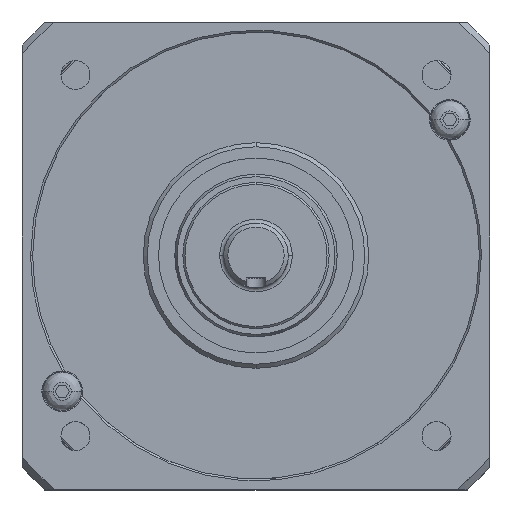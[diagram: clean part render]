
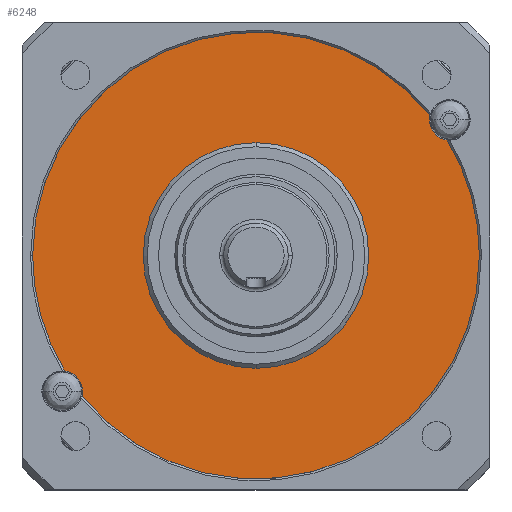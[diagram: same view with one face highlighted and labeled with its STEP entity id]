
A CAD part, top view. The second image highlights one B-rep face of the part: STEP entity #6248.
In plain terms, the highlighted planar face has unit normal (0, 0, 1).
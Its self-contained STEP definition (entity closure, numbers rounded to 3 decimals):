
#5985=CARTESIAN_POINT('',(0.,0.,77.899));
#5986=DIRECTION('',(0.,0.,-1.));
#5987=DIRECTION('',(0.,1.,0.));
#5988=AXIS2_PLACEMENT_3D('',#5985,#5986,#5987);
#5990=CARTESIAN_POINT('',(0.,0.,77.899));
#5991=DIRECTION('',(0.,0.,-1.));
#5992=DIRECTION('',(0.,-1.,0.));
#5993=AXIS2_PLACEMENT_3D('',#5990,#5991,#5992);
#6004=CARTESIAN_POINT('',(0.,0.,77.899));
#6005=DIRECTION('',(0.,0.,1.));
#6006=DIRECTION('',(1.,0.,0.));
#6007=AXIS2_PLACEMENT_3D('',#6004,#6005,#6006);
#6022=CARTESIAN_POINT('',(0.,0.,77.899));
#6023=DIRECTION('',(0.,0.,1.));
#6024=DIRECTION('',(0.779,0.627,0.));
#6025=AXIS2_PLACEMENT_3D('',#6022,#6023,#6024);
#6036=CARTESIAN_POINT('',(0.,0.,77.899));
#6037=DIRECTION('',(0.,0.,1.));
#6038=DIRECTION('',(-1.,0.,0.));
#6039=AXIS2_PLACEMENT_3D('',#6036,#6037,#6038);
#6054=CARTESIAN_POINT('',(0.,0.,77.899));
#6055=DIRECTION('',(0.,0.,1.));
#6056=DIRECTION('',(-0.779,-0.627,0.));
#6057=AXIS2_PLACEMENT_3D('',#6054,#6055,#6056);
#6059=CARTESIAN_POINT('',(-47.716,-33.411,77.899));
#6060=DIRECTION('',(0.,0.,-1.));
#6061=DIRECTION('',(0.129,0.992,0.));
#6062=AXIS2_PLACEMENT_3D('',#6059,#6060,#6061);
#6069=CARTESIAN_POINT('',(47.716,33.411,77.899));
#6070=DIRECTION('',(0.,0.,-1.));
#6071=DIRECTION('',(-0.129,-0.992,0.));
#6072=AXIS2_PLACEMENT_3D('',#6069,#6070,#6071);
#6095=CARTESIAN_POINT('',(0.,27.775,77.899));
#6096=CARTESIAN_POINT('',(0.,-27.775,77.899));
#6097=VERTEX_POINT('',#6095);
#6098=VERTEX_POINT('',#6096);
#6099=CARTESIAN_POINT('',(55.,0.,77.899));
#6100=CARTESIAN_POINT('',(47.068,28.453,77.899));
#6101=VERTEX_POINT('',#6099);
#6102=VERTEX_POINT('',#6100);
#6103=CARTESIAN_POINT('',(42.835,34.498,77.899));
#6104=CARTESIAN_POINT('',(-55.,0.,77.899));
#6105=VERTEX_POINT('',#6103);
#6106=VERTEX_POINT('',#6104);
#6107=CARTESIAN_POINT('',(-47.068,-28.453,77.899));
#6108=VERTEX_POINT('',#6107);
#6109=CARTESIAN_POINT('',(-42.835,-34.498,77.899));
#6110=VERTEX_POINT('',#6109);
#6225=CARTESIAN_POINT('',(0.,0.,77.899));
#6226=DIRECTION('',(0.,0.,1.));
#6227=DIRECTION('',(0.,1.,0.));
#6228=AXIS2_PLACEMENT_3D('',#6225,#6226,#6227);
#6229=PLANE('',#6228);
#6231=ORIENTED_EDGE('',*,*,#6230,.F.);
#6233=ORIENTED_EDGE('',*,*,#6232,.F.);
#6235=ORIENTED_EDGE('',*,*,#6234,.F.);
#6237=ORIENTED_EDGE('',*,*,#6236,.F.);
#6239=ORIENTED_EDGE('',*,*,#6238,.F.);
#6241=ORIENTED_EDGE('',*,*,#6240,.F.);
#6242=EDGE_LOOP('',(#6231,#6233,#6235,#6237,#6239,#6241));
#6243=FACE_OUTER_BOUND('',#6242,.F.);
#6244=ORIENTED_EDGE('',*,*,#6219,.F.);
#6245=ORIENTED_EDGE('',*,*,#6205,.F.);
#6246=EDGE_LOOP('',(#6244,#6245));
#6247=FACE_BOUND('',#6246,.F.);
#6248=ADVANCED_FACE('',(#6243,#6247),#6229,.T.);
#5989=CIRCLE('',#5988,27.775);
#5994=CIRCLE('',#5993,27.775);
#6008=CIRCLE('',#6007,55.);
#6026=CIRCLE('',#6025,55.);
#6040=CIRCLE('',#6039,55.);
#6058=CIRCLE('',#6057,55.);
#6063=CIRCLE('',#6062,5.);
#6073=CIRCLE('',#6072,5.);
#6205=EDGE_CURVE('',#6098,#6097,#5994,.T.);
#6219=EDGE_CURVE('',#6097,#6098,#5989,.T.);
#6230=EDGE_CURVE('',#6101,#6102,#6008,.T.);
#6232=EDGE_CURVE('',#6110,#6101,#6058,.T.);
#6234=EDGE_CURVE('',#6108,#6110,#6063,.T.);
#6236=EDGE_CURVE('',#6106,#6108,#6040,.T.);
#6238=EDGE_CURVE('',#6105,#6106,#6026,.T.);
#6240=EDGE_CURVE('',#6102,#6105,#6073,.T.);
